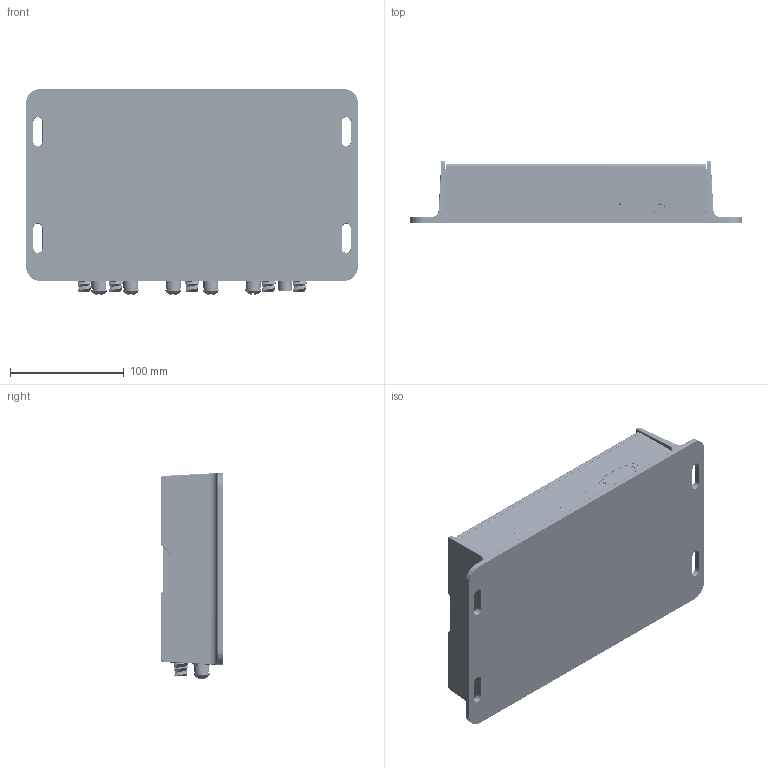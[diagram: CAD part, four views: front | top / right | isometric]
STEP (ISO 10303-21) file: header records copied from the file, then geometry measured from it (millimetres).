
FILE_DESCRIPTION((''),'2;1');
FILE_NAME('PRT0001','2018-06-26T',('ahartzle'),(''),'CREO PARAMETRIC BY PTC INC, 2016130','CREO PARAMETRIC BY PTC INC, 2016130','');
FILE_SCHEMA(('AUTOMOTIVE_DESIGN { 1 0 10303 214 1 1 1 1 }'));
Products named in the file (1): PRT0001
Bounding box: 292.45 x 54.61 x 181.68 mm (x, y, z)
Volume: 694552.1 mm3; surface area: 286486.1 mm2
Topology: 8 solids, 22 shells, 4144 faces, 11793 edges, 7817 vertices
Faces by surface type: cylinder 1514, plane 1470, cone 565, bspline 285, torus 216, extrusion 94
Entity records: 225547 total; most frequent: CARTESIAN_POINT 102530, ORIENTED_EDGE 23432, DIRECTION 19283, EDGE_CURVE 11718, VERTEX_POINT 7807, AXIS2_PLACEMENT_3D 7233, VECTOR 4817, LINE 4723
